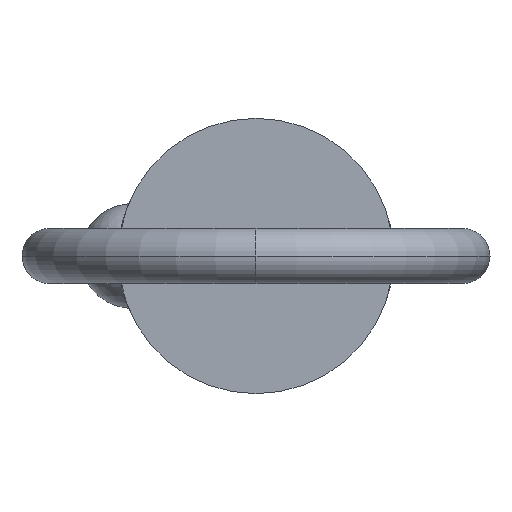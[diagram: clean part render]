
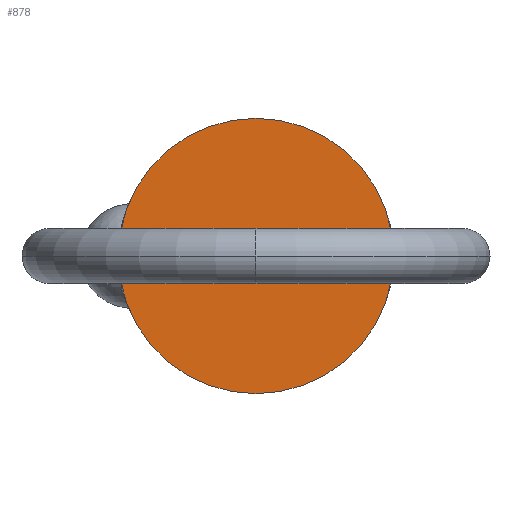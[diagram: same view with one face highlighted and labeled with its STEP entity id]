
A CAD part, left-side view. The second image highlights one B-rep face of the part: STEP entity #878.
In plain terms, the highlighted planar face has unit normal (-1, 0, 0).
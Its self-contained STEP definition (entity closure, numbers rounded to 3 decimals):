
#1 = DIRECTION ( 'NONE',  ( 0., 0., 1. ) ) ;
#3 = DIRECTION ( 'NONE',  ( 1., 0., 0. ) ) ;
#68 = CIRCLE ( 'NONE', #582, 12.7 ) ;
#86 = FACE_OUTER_BOUND ( 'NONE', #495, .T. ) ;
#156 = CARTESIAN_POINT ( 'NONE',  ( 0., 0., 0. ) ) ;
#230 = DIRECTION ( 'NONE',  ( -1., 0., 0. ) ) ;
#268 = ORIENTED_EDGE ( 'NONE', *, *, #314, .F. ) ;
#269 = CARTESIAN_POINT ( 'NONE',  ( 0., 0., 0. ) ) ;
#277 = AXIS2_PLACEMENT_3D ( 'NONE', #269, #483, #416 ) ;
#314 = EDGE_CURVE ( 'NONE', #588, #648, #68, .T. ) ;
#390 = AXIS2_PLACEMENT_3D ( 'NONE', #156, #230, #1 ) ;
#416 = DIRECTION ( 'NONE',  ( 0., 0., -1. ) ) ;
#441 = CARTESIAN_POINT ( 'NONE',  ( 0., 0., -12.7 ) ) ;
#483 = DIRECTION ( 'NONE',  ( 1., 0., 0. ) ) ;
#495 = EDGE_LOOP ( 'NONE', ( #870, #268 ) ) ;
#565 = CARTESIAN_POINT ( 'NONE',  ( 0., 0., 12.7 ) ) ;
#566 = EDGE_CURVE ( 'NONE', #648, #588, #581, .T. ) ;
#581 = CIRCLE ( 'NONE', #277, 12.7 ) ;
#582 = AXIS2_PLACEMENT_3D ( 'NONE', #696, #3, #631 ) ;
#588 = VERTEX_POINT ( 'NONE', #565 ) ;
#631 = DIRECTION ( 'NONE',  ( 0., 0., -1. ) ) ;
#648 = VERTEX_POINT ( 'NONE', #441 ) ;
#696 = CARTESIAN_POINT ( 'NONE',  ( 0., 0., 0. ) ) ;
#846 = PLANE ( 'NONE',  #390 ) ;
#870 = ORIENTED_EDGE ( 'NONE', *, *, #566, .F. ) ;
#878 = ADVANCED_FACE ( 'NONE', ( #86 ), #846, .T. ) ;
